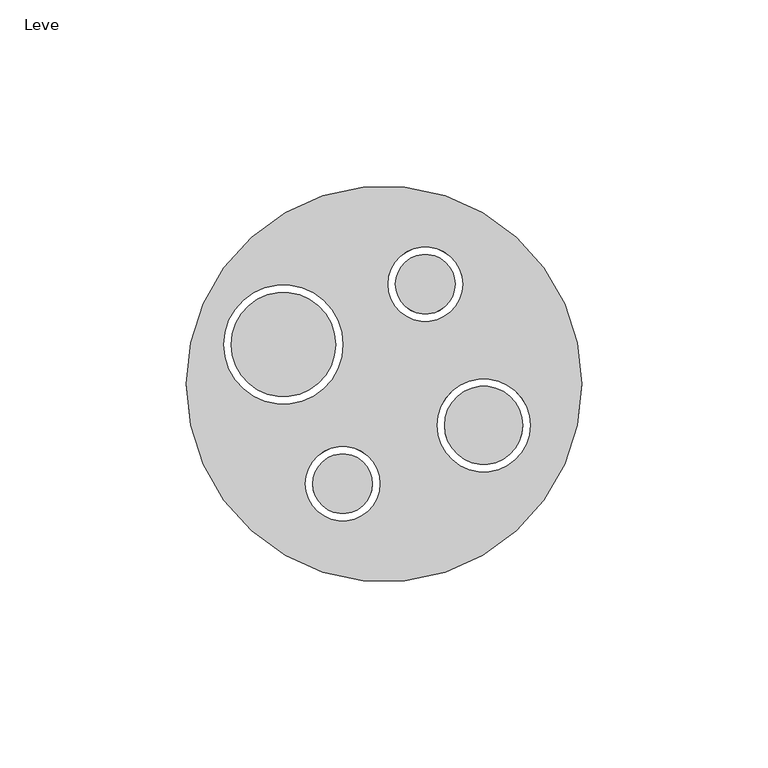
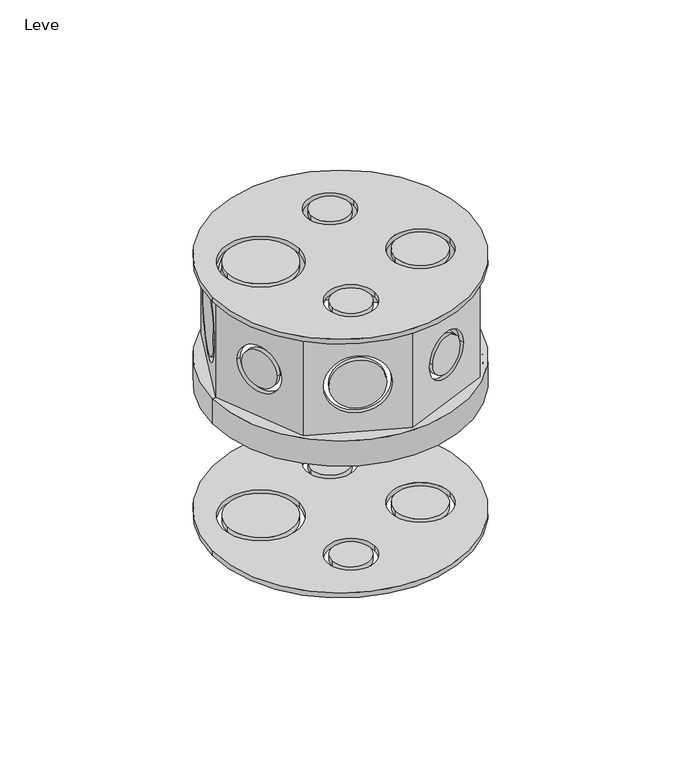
"""IFC4 building model written with IfcOpenShell, lengths in millimetres: pipe fitting geometry, AmancoWavin_ConexõesdoConduite_CorrugadoCaixaOctogonalcomProlongamentoLeve : Leve."""

from ifc_helpers import new_model, si_unit, point, frame, frame_2d, origin, origin_2d, place, context, project, spatial, polyline, circle_curve, trimmed, segment, composite_curve, outline, extrude, source, transform, mapped, element, save
from ifc_brep_helpers import plane_surface, cylinder_surface, revolved_surface, advanced_brep


def leve_d32ba077(model_context):
    return source(origin(), model_context, "Body", "SolidModel", [
        extrude(outline(composite_curve([segment(trimmed(circle_curve(origin_2d(), 53.1), [point((-53.1, 0.0))], [point((53.1, 0.0))], False, "CARTESIAN"), True, "CONTINUOUS"), segment(trimmed(circle_curve(origin_2d(), 53.1), [point((53.1, 0.0))], [point((-53.1, 0.0))], False, "CARTESIAN"), True, "CONTINUOUS")], self_intersect=False), holes=[composite_curve([segment(trimmed(circle_curve(frame_2d((11.0978211, 26.7925101)), 10.0), [point((1.0978211, 26.7925101))], [point((21.0978211, 26.7925101))], True, "CARTESIAN"), True, "CONTINUOUS"), segment(trimmed(circle_curve(frame_2d((11.0978211, 26.7925101)), 10.0), [point((21.0978211, 26.7925101))], [point((1.0978211, 26.7925101))], True, "CARTESIAN"), True, "CONTINUOUS")], self_intersect=False), composite_curve([segment(trimmed(circle_curve(frame_2d((-11.0978211, -26.7925101)), 10.0), [point((-21.0978211, -26.7925101))], [point((-1.0978211, -26.7925101))], True, "CARTESIAN"), True, "CONTINUOUS"), segment(trimmed(circle_curve(frame_2d((-11.0978211, -26.7925101)), 10.0), [point((-1.0978211, -26.7925101))], [point((-21.0978211, -26.7925101))], True, "CARTESIAN"), True, "CONTINUOUS")], self_intersect=False), composite_curve([segment(trimmed(circle_curve(frame_2d((-27.0031292, 10.5893313)), 16.0), [point((-43.0031292, 10.5893313))], [point((-11.0031292, 10.5893313))], True, "CARTESIAN"), True, "CONTINUOUS"), segment(trimmed(circle_curve(frame_2d((-27.0031292, 10.5893313)), 16.0), [point((-11.0031292, 10.5893313))], [point((-43.0031292, 10.5893313))], True, "CARTESIAN"), True, "CONTINUOUS")], self_intersect=False), composite_curve([segment(trimmed(circle_curve(frame_2d((26.7866956, -11.1118481)), 12.5), [point((14.2866956, -11.1118481))], [point((39.2866956, -11.1118481))], True, "CARTESIAN"), True, "CONTINUOUS"), segment(trimmed(circle_curve(frame_2d((26.7866956, -11.1118481)), 12.5), [point((39.2866956, -11.1118481))], [point((14.2866956, -11.1118481))], True, "CARTESIAN"), True, "CONTINUOUS")], self_intersect=False)]), frame((0.0, 0.0, -2.1), z_axis=(0.0, 0.0, 1.0), x_axis=(1.0, 0.0, 0.0)), (0.0, 0.0, 1.0), 2.1),
        extrude(outline(composite_curve([segment(trimmed(circle_curve(frame_2d((11.0978211, 26.7925101)), 8.0), [point((3.0978211, 26.7925101))], [point((19.0978211, 26.7925101))], False, "CARTESIAN"), True, "CONTINUOUS"), segment(trimmed(circle_curve(frame_2d((11.0978211, 26.7925101)), 8.0), [point((19.0978211, 26.7925101))], [point((3.0978211, 26.7925101))], False, "CARTESIAN"), True, "CONTINUOUS")], self_intersect=False)), frame((0.0, 0.0, -2.1), z_axis=(0.0, 0.0, 1.0), x_axis=(1.0, 0.0, 0.0)), (0.0, 0.0, 1.0), 2.1),
        extrude(outline(composite_curve([segment(trimmed(circle_curve(frame_2d((-11.0978211, -26.7925101)), 8.0), [point((-19.0978211, -26.7925101))], [point((-3.0978211, -26.7925101))], False, "CARTESIAN"), True, "CONTINUOUS"), segment(trimmed(circle_curve(frame_2d((-11.0978211, -26.7925101)), 8.0), [point((-3.0978211, -26.7925101))], [point((-19.0978211, -26.7925101))], False, "CARTESIAN"), True, "CONTINUOUS")], self_intersect=False)), frame((0.0, 0.0, -2.1), z_axis=(0.0, 0.0, 1.0), x_axis=(1.0, 0.0, 0.0)), (0.0, 0.0, 1.0), 2.1),
        extrude(outline(composite_curve([segment(trimmed(circle_curve(frame_2d((-27.0031292, 10.5893313)), 14.0), [point((-41.0031292, 10.5893313))], [point((-13.0031292, 10.5893313))], False, "CARTESIAN"), True, "CONTINUOUS"), segment(trimmed(circle_curve(frame_2d((-27.0031292, 10.5893313)), 14.0), [point((-13.0031292, 10.5893313))], [point((-41.0031292, 10.5893313))], False, "CARTESIAN"), True, "CONTINUOUS")], self_intersect=False)), frame((0.0, 0.0, -2.1), z_axis=(0.0, 0.0, 1.0), x_axis=(1.0, 0.0, 0.0)), (0.0, 0.0, 1.0), 2.1),
        extrude(outline(composite_curve([segment(trimmed(circle_curve(frame_2d((26.7866956, -11.1118481)), 10.5), [point((16.2866956, -11.1118481))], [point((37.2866956, -11.1118481))], False, "CARTESIAN"), True, "CONTINUOUS"), segment(trimmed(circle_curve(frame_2d((26.7866956, -11.1118481)), 10.5), [point((37.2866956, -11.1118481))], [point((16.2866956, -11.1118481))], False, "CARTESIAN"), True, "CONTINUOUS")], self_intersect=False)), frame((0.0, 0.0, -2.1), z_axis=(0.0, 0.0, 1.0), x_axis=(1.0, 0.0, 0.0)), (0.0, 0.0, 1.0), 2.1),
        advanced_brep(
        [(-53.1, 0.0, 66.8), (53.1, 0.0, 66.8), (50.0065197, 0.0, 66.8), (35.3599492, -35.3599492, 66.8), (0.0, -50.0065197, 66.8), (-35.3599492, -35.3599492, 66.8), (-50.0065197, 0.0, 66.8), (-35.3599492, 35.3599492, 66.8), (0.0, 50.0065197, 66.8), (35.3599492, 35.3599492, 66.8), (51.3, 0.0, 65.0), (-51.3, 0.0, 65.0), (-50.0065197, 0.0, 65.0), (-35.3599492, -35.3599492, 65.0), (0.0, -50.0065197, 65.0), (35.3599492, -35.3599492, 65.0), (50.0065197, 0.0, 65.0), (35.3599492, 35.3599492, 65.0), (0.0, 50.0065197, 65.0), (-35.3599492, 35.3599492, 65.0), (51.3, 0.0, 55.7), (-51.3, 0.0, 55.7), (53.1, 0.0, 55.7), (-53.1, 0.0, 55.7)],
        [
            (0, 1, circle_curve(frame((0.0, 0.0, 66.8), z_axis=(0.0, 0.0, 1.0), x_axis=(-1.0, 0.0, 0.0)), 53.1)),
            (1, 2),
            (2, 3),
            (3, 4),
            (4, 5),
            (5, 6),
            (6, 0),
            (1, 0, circle_curve(frame((0.0, 0.0, 66.8), z_axis=(0.0, 0.0, 1.0), x_axis=(-1.0, 0.0, 0.0)), 53.1)),
            (6, 7),
            (7, 8),
            (8, 9),
            (9, 2),
            (10, 11, circle_curve(frame((0.0, 0.0, 65.0), z_axis=(0.0, 0.0, -1.0), x_axis=(-1.0, 0.0, 0.0)), 51.3)),
            (11, 12),
            (12, 13),
            (13, 14),
            (14, 15),
            (15, 16),
            (16, 10),
            (11, 10, circle_curve(frame((0.0, 0.0, 65.0), z_axis=(0.0, 0.0, -1.0), x_axis=(-1.0, 0.0, 0.0)), 51.3)),
            (16, 17),
            (17, 18),
            (18, 19),
            (19, 12),
            (10, 20),
            (20, 21, circle_curve(frame((0.0, 0.0, 55.7), z_axis=(0.0, 0.0, -1.0), x_axis=(-1.0, 0.0, 0.0)), 51.3)),
            (21, 11),
            (21, 20, circle_curve(frame((0.0, 0.0, 55.7), z_axis=(0.0, 0.0, -1.0), x_axis=(-1.0, 0.0, 0.0)), 51.3)),
            (20, 22),
            (22, 23, circle_curve(frame((0.0, 0.0, 55.7), z_axis=(0.0, 0.0, -1.0), x_axis=(-1.0, 0.0, 0.0)), 53.1)),
            (23, 21),
            (23, 22, circle_curve(frame((0.0, 0.0, 55.7), z_axis=(0.0, 0.0, -1.0), x_axis=(-1.0, 0.0, 0.0)), 53.1)),
            (0, 23),
            (22, 1),
            (6, 12),
            (19, 7),
            (5, 13),
            (4, 14),
            (3, 15),
            (2, 16),
            (9, 17),
            (8, 18),
        ],
        [
            plane_surface(frame((0.0, 0.0, 66.8), z_axis=(0.0, 0.0, 1.0), x_axis=(-1.0, 0.0, 0.0))),
            plane_surface(frame((0.0, 0.0, 65.0), z_axis=(0.0, 0.0, -1.0), x_axis=(-1.0, 0.0, 0.0))),
            revolved_surface(polyline([(-51.3, 0.0, 65.0), (-51.3, 0.0, 55.69999999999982)]), (0.0, 0.0, -2207.2837531), (0.0, 0.0, 1.0)),
            plane_surface(frame((0.0, 0.0, 55.7), z_axis=(0.0, 0.0, -1.0), x_axis=(-1.0, 0.0, 0.0))),
            cylinder_surface(frame((0.0, 0.0, -2207.2837531), z_axis=(0.0, 0.0, 1.0), x_axis=(-1.0, 0.0, 0.0)), 53.1),
            plane_surface(frame((-35.3599492, 35.3599492, 109.3), z_axis=(0.9238795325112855, -0.38268343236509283, 0.0), x_axis=(0.0, 0.0, -1.0))),
            plane_surface(frame((-50.0065197, 0.0, 109.3), z_axis=(0.9238795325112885, 0.3826834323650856, 0.0), x_axis=(0.0, 0.0, -1.0))),
            plane_surface(frame((-35.3599492, -35.3599492, 109.3), z_axis=(0.38268343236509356, 0.9238795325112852, 0.0), x_axis=(0.0, 0.0, -1.0))),
            plane_surface(frame((0.0, -50.0065197, 109.3), z_axis=(-0.38268343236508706, 0.923879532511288, 0.0), x_axis=(0.0, 0.0, -1.0))),
            plane_surface(frame((35.3599492, -35.3599492, 109.3), z_axis=(-0.9238795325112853, 0.3826834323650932, 0.0), x_axis=(0.0, 0.0, -1.0))),
            plane_surface(frame((50.0065197, 0.0, 109.3), z_axis=(-0.9238795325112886, -0.38268343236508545, 0.0), x_axis=(0.0, 0.0, -1.0))),
            plane_surface(frame((35.3599492, 35.3599492, 109.3), z_axis=(-0.3826834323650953, -0.9238795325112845, 0.0), x_axis=(0.0, 0.0, -1.0))),
            plane_surface(frame((0.0, 50.0065197, 109.3), z_axis=(0.3826834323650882, -0.9238795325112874, 0.0), x_axis=(0.0, 0.0, -1.0))),
        ],
        [
            (0, [[1, 2, 3, 4, 5, 6, 7]]),
            (0, [[8, -7, 9, 10, 11, 12, -2]]),
            (1, [[13, 14, 15, 16, 17, 18, 19]]),
            (1, [[20, -19, 21, 22, 23, 24, -14]]),
            (2, [[-13, 25, 26, 27]]),
            (2, [[-20, -27, 28, -25]]),
            (3, [[-26, 29, 30, 31]]),
            (3, [[-28, -31, 32, -29]]),
            (4, [[-1, 33, -30, 34]]),
            (4, [[-8, -34, -32, -33]]),
            (5, [[35, -24, 36, -9]]),
            (6, [[-35, -6, 37, -15]]),
            (7, [[-37, -5, 38, -16]]),
            (8, [[-38, -4, 39, -17]]),
            (9, [[40, -18, -39, -3]]),
            (10, [[-40, -12, 41, -21]]),
            (11, [[-41, -11, 42, -22]]),
            (12, [[-36, -23, -42, -10]]),
        ],
    ),
        extrude(outline(composite_curve([segment(trimmed(circle_curve(origin_2d(), 53.1), [point((-53.1, 0.0))], [point((53.1, 0.0))], False, "CARTESIAN"), True, "CONTINUOUS"), segment(trimmed(circle_curve(origin_2d(), 53.1), [point((53.1, 0.0))], [point((-53.1, 0.0))], False, "CARTESIAN"), True, "CONTINUOUS")], self_intersect=False), holes=[composite_curve([segment(trimmed(circle_curve(frame_2d((11.0978211, 26.7925101)), 10.0), [point((1.0978211, 26.7925101))], [point((21.0978211, 26.7925101))], True, "CARTESIAN"), True, "CONTINUOUS"), segment(trimmed(circle_curve(frame_2d((11.0978211, 26.7925101)), 10.0), [point((21.0978211, 26.7925101))], [point((1.0978211, 26.7925101))], True, "CARTESIAN"), True, "CONTINUOUS")], self_intersect=False), composite_curve([segment(trimmed(circle_curve(frame_2d((-11.0978211, -26.7925101)), 10.0), [point((-21.0978211, -26.7925101))], [point((-1.0978211, -26.7925101))], True, "CARTESIAN"), True, "CONTINUOUS"), segment(trimmed(circle_curve(frame_2d((-11.0978211, -26.7925101)), 10.0), [point((-1.0978211, -26.7925101))], [point((-21.0978211, -26.7925101))], True, "CARTESIAN"), True, "CONTINUOUS")], self_intersect=False), composite_curve([segment(trimmed(circle_curve(frame_2d((-27.0031292, 10.5893313)), 16.0), [point((-43.0031292, 10.5893313))], [point((-11.0031292, 10.5893313))], True, "CARTESIAN"), True, "CONTINUOUS"), segment(trimmed(circle_curve(frame_2d((-27.0031292, 10.5893313)), 16.0), [point((-11.0031292, 10.5893313))], [point((-43.0031292, 10.5893313))], True, "CARTESIAN"), True, "CONTINUOUS")], self_intersect=False), composite_curve([segment(trimmed(circle_curve(frame_2d((26.7866956, -11.1118481)), 12.5), [point((14.2866956, -11.1118481))], [point((39.2866956, -11.1118481))], True, "CARTESIAN"), True, "CONTINUOUS"), segment(trimmed(circle_curve(frame_2d((26.7866956, -11.1118481)), 12.5), [point((39.2866956, -11.1118481))], [point((14.2866956, -11.1118481))], True, "CARTESIAN"), True, "CONTINUOUS")], self_intersect=False)]), frame((0.0, 0.0, 109.3), z_axis=(0.0, 0.0, 1.0), x_axis=(1.0, 0.0, 0.0)), (0.0, 0.0, 1.0), 2.1),
        extrude(outline(composite_curve([segment(trimmed(circle_curve(frame_2d((11.0978211, 26.7925101)), 8.0), [point((3.0978211, 26.7925101))], [point((19.0978211, 26.7925101))], False, "CARTESIAN"), True, "CONTINUOUS"), segment(trimmed(circle_curve(frame_2d((11.0978211, 26.7925101)), 8.0), [point((19.0978211, 26.7925101))], [point((3.0978211, 26.7925101))], False, "CARTESIAN"), True, "CONTINUOUS")], self_intersect=False)), frame((0.0, 0.0, 109.3), z_axis=(0.0, 0.0, 1.0), x_axis=(1.0, 0.0, 0.0)), (0.0, 0.0, 1.0), 2.1),
        extrude(outline(composite_curve([segment(trimmed(circle_curve(frame_2d((-11.0978211, -26.7925101)), 8.0), [point((-19.0978211, -26.7925101))], [point((-3.0978211, -26.7925101))], False, "CARTESIAN"), True, "CONTINUOUS"), segment(trimmed(circle_curve(frame_2d((-11.0978211, -26.7925101)), 8.0), [point((-3.0978211, -26.7925101))], [point((-19.0978211, -26.7925101))], False, "CARTESIAN"), True, "CONTINUOUS")], self_intersect=False)), frame((0.0, 0.0, 109.3), z_axis=(0.0, 0.0, 1.0), x_axis=(1.0, 0.0, 0.0)), (0.0, 0.0, 1.0), 2.1),
        extrude(outline(composite_curve([segment(trimmed(circle_curve(frame_2d((-27.0031292, 10.5893313)), 14.0), [point((-41.0031292, 10.5893313))], [point((-13.0031292, 10.5893313))], False, "CARTESIAN"), True, "CONTINUOUS"), segment(trimmed(circle_curve(frame_2d((-27.0031292, 10.5893313)), 14.0), [point((-13.0031292, 10.5893313))], [point((-41.0031292, 10.5893313))], False, "CARTESIAN"), True, "CONTINUOUS")], self_intersect=False)), frame((0.0, 0.0, 109.3), z_axis=(0.0, 0.0, 1.0), x_axis=(1.0, 0.0, 0.0)), (0.0, 0.0, 1.0), 2.1),
        extrude(outline(composite_curve([segment(trimmed(circle_curve(frame_2d((26.7866956, -11.1118481)), 10.5), [point((16.2866956, -11.1118481))], [point((37.2866956, -11.1118481))], False, "CARTESIAN"), True, "CONTINUOUS"), segment(trimmed(circle_curve(frame_2d((26.7866956, -11.1118481)), 10.5), [point((37.2866956, -11.1118481))], [point((16.2866956, -11.1118481))], False, "CARTESIAN"), True, "CONTINUOUS")], self_intersect=False)), frame((0.0, 0.0, 109.3), z_axis=(0.0, 0.0, 1.0), x_axis=(1.0, 0.0, 0.0)), (0.0, 0.0, 1.0), 2.1),
        advanced_brep(
        [(-35.3599492, 35.3599492, 66.8), (-35.3599492, 35.3599492, 109.3), (-50.0065197, 0.0, 109.3), (-50.0065197, 0.0, 66.8), (-36.5602995, 32.4620471, 87.9), (-48.8061693, 2.8979021, 87.9), (-35.3599492, -35.3599492, 109.3), (-35.3599492, -35.3599492, 66.8), (-46.5100687, -8.4411793, 87.9), (-38.8564001, -26.9187699, 87.9), (0.0, -50.0065197, 109.3), (0.0, -50.0065197, 66.8), (-29.2284687, -37.8996915, 87.9), (-6.1314804, -47.4667773, 87.9), (35.3599492, -35.3599492, 109.3), (35.3599492, -35.3599492, 66.8), (8.4411793, -46.5100687, 87.9), (26.9187699, -38.8564001, 87.9), (50.0065197, 0.0, 109.3), (50.0065197, 0.0, 66.8), (36.5602995, -32.4620471, 87.9), (48.8061693, -2.8979021, 87.9), (35.3599492, 35.3599492, 109.3), (35.3599492, 35.3599492, 66.8), (47.4667773, 6.1314804, 87.9), (37.8996915, 29.2284687, 87.9), (0.0, 50.0065197, 109.3), (0.0, 50.0065197, 66.8), (26.9187699, 38.8564001, 87.9), (8.4411793, 46.5100687, 87.9), (-6.1314804, 47.4667773, 87.9), (-29.2284687, 37.8996915, 87.9), (-36.7376095, 36.7376095, 109.3), (-51.9548256, 0.0, 109.3), (-36.7376095, -36.7376095, 109.3), (0.0, -51.9548256, 109.3), (36.7376095, -36.7376095, 109.3), (51.9548256, 0.0, 109.3), (36.7376095, 36.7376095, 109.3), (0.0, 51.9548256, 109.3), (-36.7376095, 36.7376095, 66.8), (0.0, 51.9548256, 66.8), (36.7376095, 36.7376095, 66.8), (51.9548256, 0.0, 66.8), (36.7376095, -36.7376095, 66.8), (0.0, -51.9548256, 66.8), (-36.7376095, -36.7376095, 66.8), (-51.9548256, 0.0, 66.8), (-50.4691525, 3.5867322, 87.9), (-38.2232826, 33.1508773, 87.9), (-40.5193832, -27.6076001, 87.9), (-48.1730519, -9.1300094, 87.9), (-6.8203106, -49.1297605, 87.9), (-29.9172989, -39.5626747, 87.9), (27.6076001, -40.5193832, 87.9), (9.1300094, -48.1730519, 87.9), (50.4691525, -3.5867322, 87.9), (38.2232826, -33.1508773, 87.9), (39.5626747, 29.9172989, 87.9), (49.1297605, 6.8203106, 87.9), (9.1300094, 48.1730519, 87.9), (27.6076001, 40.5193832, 87.9), (-29.9172989, 39.5626747, 87.9), (-6.8203106, 49.1297605, 87.9)],
        [
            (0, 1),
            (1, 2),
            (2, 3),
            (3, 0),
            (4, 5, circle_curve(frame((-42.6832344, 17.6799746, 87.9), z_axis=(-0.9238795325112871, 0.38268343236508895, 0.0), x_axis=(-0.38268343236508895, -0.9238795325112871, 0.0)), 16.0)),
            (5, 4, circle_curve(frame((-42.6832344, 17.6799746, 87.9), z_axis=(-0.9238795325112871, 0.38268343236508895, 0.0), x_axis=(-0.38268343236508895, -0.9238795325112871, 0.0)), 16.0)),
            (2, 6),
            (6, 7),
            (7, 3),
            (8, 9, circle_curve(frame((-42.6832344, -17.6799746, 87.9), z_axis=(-0.9238795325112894, -0.38268343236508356, 0.0), x_axis=(0.38268343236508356, -0.9238795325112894, 0.0)), 10.0)),
            (9, 8, circle_curve(frame((-42.6832344, -17.6799746, 87.9), z_axis=(-0.9238795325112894, -0.38268343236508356, 0.0), x_axis=(0.38268343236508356, -0.9238795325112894, 0.0)), 10.0)),
            (6, 10),
            (10, 11),
            (11, 7),
            (12, 13, circle_curve(frame((-17.6799746, -42.6832344, 87.9), z_axis=(-0.3826834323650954, -0.9238795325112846, 0.0), x_axis=(-0.9238795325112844, 0.3826834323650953, 0.0)), 12.5)),
            (13, 12, circle_curve(frame((-17.6799746, -42.6832344, 87.9), z_axis=(-0.3826834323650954, -0.9238795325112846, 0.0), x_axis=(-0.9238795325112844, 0.3826834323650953, 0.0)), 12.5)),
            (10, 14),
            (14, 15),
            (15, 11),
            (16, 17, circle_curve(frame((17.6799746, -42.6832344, 87.9), z_axis=(0.38268343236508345, -0.9238795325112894, 0.0), x_axis=(0.9238795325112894, 0.38268343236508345, 0.0)), 10.0)),
            (17, 16, circle_curve(frame((17.6799746, -42.6832344, 87.9), z_axis=(0.38268343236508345, -0.9238795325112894, 0.0), x_axis=(0.9238795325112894, 0.38268343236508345, 0.0)), 10.0)),
            (14, 18),
            (18, 19),
            (19, 15),
            (20, 21, circle_curve(frame((42.6832344, -17.6799746, 87.9), z_axis=(0.9238795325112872, -0.38268343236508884, 0.0), x_axis=(-0.38268343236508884, -0.9238795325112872, 0.0)), 16.0)),
            (21, 20, circle_curve(frame((42.6832344, -17.6799746, 87.9), z_axis=(0.9238795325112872, -0.38268343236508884, 0.0), x_axis=(-0.38268343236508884, -0.9238795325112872, 0.0)), 16.0)),
            (18, 22),
            (22, 23),
            (23, 19),
            (24, 25, circle_curve(frame((42.6832344, 17.6799746, 87.9), z_axis=(0.9238795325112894, 0.38268343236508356, 0.0), x_axis=(0.38268343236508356, -0.9238795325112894, 0.0)), 12.5)),
            (25, 24, circle_curve(frame((42.6832344, 17.6799746, 87.9), z_axis=(0.9238795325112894, 0.38268343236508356, 0.0), x_axis=(0.38268343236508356, -0.9238795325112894, 0.0)), 12.5)),
            (22, 26),
            (26, 27),
            (27, 23),
            (28, 29, circle_curve(frame((17.6799746, 42.6832344, 87.9), z_axis=(0.38268343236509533, 0.9238795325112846, 0.0), x_axis=(0.9238795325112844, -0.3826834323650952, 0.0)), 10.0)),
            (29, 28, circle_curve(frame((17.6799746, 42.6832344, 87.9), z_axis=(0.38268343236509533, 0.9238795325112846, 0.0), x_axis=(0.9238795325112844, -0.3826834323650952, 0.0)), 10.0)),
            (0, 27),
            (26, 1),
            (30, 31, circle_curve(frame((-17.6799746, 42.6832344, 87.9), z_axis=(-0.3826834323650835, 0.9238795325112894, 0.0), x_axis=(-0.9238795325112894, -0.3826834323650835, 0.0)), 12.5)),
            (31, 30, circle_curve(frame((-17.6799746, 42.6832344, 87.9), z_axis=(-0.3826834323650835, 0.9238795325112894, 0.0), x_axis=(-0.9238795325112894, -0.3826834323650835, 0.0)), 12.5)),
            (32, 33),
            (33, 34),
            (34, 35),
            (35, 36),
            (36, 37),
            (37, 38),
            (38, 39),
            (39, 32),
            (40, 41),
            (41, 42),
            (42, 43),
            (43, 44),
            (44, 45),
            (45, 46),
            (46, 47),
            (47, 40),
            (32, 40),
            (47, 33),
            (48, 49, circle_curve(frame((-44.3462176, 18.3688048, 87.9), z_axis=(0.9238795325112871, -0.38268343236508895, 0.0), x_axis=(-0.38268343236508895, -0.9238795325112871, 0.0)), 16.0)),
            (49, 48, circle_curve(frame((-44.3462176, 18.3688048, 87.9), z_axis=(0.9238795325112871, -0.38268343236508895, 0.0), x_axis=(-0.38268343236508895, -0.9238795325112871, 0.0)), 16.0)),
            (46, 34),
            (50, 51, circle_curve(frame((-44.3462176, -18.3688048, 87.9), z_axis=(0.9238795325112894, 0.38268343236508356, 0.0), x_axis=(0.38268343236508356, -0.9238795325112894, 0.0)), 10.0)),
            (51, 50, circle_curve(frame((-44.3462176, -18.3688048, 87.9), z_axis=(0.9238795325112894, 0.38268343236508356, 0.0), x_axis=(0.38268343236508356, -0.9238795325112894, 0.0)), 10.0)),
            (45, 35),
            (52, 53, circle_curve(frame((-18.3688048, -44.3462176, 87.9), z_axis=(0.3826834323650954, 0.9238795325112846, 0.0), x_axis=(-0.9238795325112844, 0.3826834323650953, 0.0)), 12.5)),
            (53, 52, circle_curve(frame((-18.3688048, -44.3462176, 87.9), z_axis=(0.3826834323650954, 0.9238795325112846, 0.0), x_axis=(-0.9238795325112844, 0.3826834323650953, 0.0)), 12.5)),
            (44, 36),
            (54, 55, circle_curve(frame((18.3688048, -44.3462176, 87.9), z_axis=(-0.38268343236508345, 0.9238795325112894, 0.0), x_axis=(0.9238795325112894, 0.38268343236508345, 0.0)), 10.0)),
            (55, 54, circle_curve(frame((18.3688048, -44.3462176, 87.9), z_axis=(-0.38268343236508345, 0.9238795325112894, 0.0), x_axis=(0.9238795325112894, 0.38268343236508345, 0.0)), 10.0)),
            (43, 37),
            (56, 57, circle_curve(frame((44.3462176, -18.3688048, 87.9), z_axis=(-0.9238795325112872, 0.38268343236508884, 0.0), x_axis=(-0.38268343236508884, -0.9238795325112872, 0.0)), 16.0)),
            (57, 56, circle_curve(frame((44.3462176, -18.3688048, 87.9), z_axis=(-0.9238795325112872, 0.38268343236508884, 0.0), x_axis=(-0.38268343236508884, -0.9238795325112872, 0.0)), 16.0)),
            (42, 38),
            (58, 59, circle_curve(frame((44.3462176, 18.3688048, 87.9), z_axis=(-0.9238795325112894, -0.38268343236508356, 0.0), x_axis=(0.38268343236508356, -0.9238795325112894, 0.0)), 12.5)),
            (59, 58, circle_curve(frame((44.3462176, 18.3688048, 87.9), z_axis=(-0.9238795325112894, -0.38268343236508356, 0.0), x_axis=(0.38268343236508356, -0.9238795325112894, 0.0)), 12.5)),
            (41, 39),
            (60, 61, circle_curve(frame((18.3688048, 44.3462176, 87.9), z_axis=(-0.38268343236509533, -0.9238795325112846, 0.0), x_axis=(0.9238795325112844, -0.3826834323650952, 0.0)), 10.0)),
            (61, 60, circle_curve(frame((18.3688048, 44.3462176, 87.9), z_axis=(-0.38268343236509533, -0.9238795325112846, 0.0), x_axis=(0.9238795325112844, -0.3826834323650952, 0.0)), 10.0)),
            (62, 63, circle_curve(frame((-18.3688048, 44.3462176, 87.9), z_axis=(0.3826834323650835, -0.9238795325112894, 0.0), x_axis=(-0.9238795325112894, -0.3826834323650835, 0.0)), 12.5)),
            (63, 62, circle_curve(frame((-18.3688048, 44.3462176, 87.9), z_axis=(0.3826834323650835, -0.9238795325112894, 0.0), x_axis=(-0.9238795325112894, -0.3826834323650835, 0.0)), 12.5)),
            (4, 49),
            (48, 5),
            (8, 51),
            (50, 9),
            (56, 21),
            (20, 57),
            (58, 25),
            (24, 59),
            (30, 63),
            (62, 31),
            (52, 13),
            (12, 53),
            (60, 29),
            (28, 61),
            (16, 55),
            (54, 17),
        ],
        [
            plane_surface(frame((-35.3599492, 35.3599492, 109.3), z_axis=(0.9238795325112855, -0.38268343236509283, 0.0), x_axis=(0.0, 0.0, -1.0))),
            plane_surface(frame((-50.0065197, 0.0, 109.3), z_axis=(0.9238795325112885, 0.3826834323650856, 0.0), x_axis=(0.0, 0.0, -1.0))),
            plane_surface(frame((-35.3599492, -35.3599492, 109.3), z_axis=(0.38268343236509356, 0.9238795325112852, 0.0), x_axis=(0.0, 0.0, -1.0))),
            plane_surface(frame((0.0, -50.0065197, 109.3), z_axis=(-0.38268343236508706, 0.923879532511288, 0.0), x_axis=(0.0, 0.0, -1.0))),
            plane_surface(frame((35.3599492, -35.3599492, 109.3), z_axis=(-0.9238795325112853, 0.3826834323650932, 0.0), x_axis=(0.0, 0.0, -1.0))),
            plane_surface(frame((50.0065197, 0.0, 109.3), z_axis=(-0.9238795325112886, -0.38268343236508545, 0.0), x_axis=(0.0, 0.0, -1.0))),
            plane_surface(frame((35.3599492, 35.3599492, 109.3), z_axis=(-0.3826834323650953, -0.9238795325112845, 0.0), x_axis=(0.0, 0.0, -1.0))),
            plane_surface(frame((0.0, 50.0065197, 109.3), z_axis=(0.3826834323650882, -0.9238795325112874, 0.0), x_axis=(0.0, 0.0, -1.0))),
            plane_surface(frame((-36.7376095, 36.7376095, 109.3), z_axis=(0.0, 0.0, 1.0000000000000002), x_axis=(-0.3826834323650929, -0.9238795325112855, 0.0))),
            plane_surface(frame((-36.7376095, 36.7376095, 66.8), z_axis=(0.0, 0.0, -1.0000000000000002), x_axis=(0.3826834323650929, 0.9238795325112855, 0.0))),
            plane_surface(frame((-36.7376095, 36.7376095, 109.3), z_axis=(-0.9238795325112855, 0.3826834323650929, 0.0), x_axis=(0.0, 0.0, -1.0))),
            plane_surface(frame((-51.9548256, 0.0, 109.3), z_axis=(-0.9238795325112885, -0.3826834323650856, 0.0), x_axis=(0.0, 0.0, -1.0))),
            plane_surface(frame((-36.7376095, -36.7376095, 109.3), z_axis=(-0.3826834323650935, -0.9238795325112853, 0.0), x_axis=(0.0, 0.0, -1.0))),
            plane_surface(frame((0.0, -51.9548256, 109.3), z_axis=(0.3826834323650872, -0.9238795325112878, 0.0), x_axis=(0.0, 0.0, -1.0))),
            plane_surface(frame((36.7376095, -36.7376095, 109.3), z_axis=(0.9238795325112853, -0.3826834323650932, 0.0), x_axis=(0.0, 0.0, -1.0))),
            plane_surface(frame((51.9548256, 0.0, 109.3), z_axis=(0.9238795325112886, 0.3826834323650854, 0.0), x_axis=(0.0, 0.0, -1.0))),
            plane_surface(frame((36.7376095, 36.7376095, 109.3), z_axis=(0.38268343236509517, 0.9238795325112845, 0.0), x_axis=(0.0, 0.0, -1.0))),
            plane_surface(frame((0.0, 51.9548256, 109.3), z_axis=(-0.3826834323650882, 0.9238795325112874, 0.0), x_axis=(0.0, 0.0, -1.0))),
            revolved_surface(polyline([(-48.806169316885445, 2.8979020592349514, 87.9), (-50.46915252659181, 3.58673225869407, 87.9)]), (113.1333485, -46.8613673, 87.9), (0.9238795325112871, -0.38268343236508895, 0.0)),
            revolved_surface(polyline([(-38.856400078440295, -26.918769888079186, 87.9), (-40.5193832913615, -27.60760008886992, 87.9)]), (-88.9612962, -36.8489754, 87.9), (0.9238795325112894, 0.38268343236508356, 0.0)),
            revolved_surface(polyline([(38.22328269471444, -33.15087728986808, 87.9), (36.560299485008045, -32.46204709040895, 87.9)]), (113.1333485, -46.8613673, 87.9), (0.9238795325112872, -0.38268343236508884, 0.0)),
            revolved_surface(polyline([(49.12976051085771, 6.820310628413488, 87.9), (47.4667772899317, 6.131480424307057, 87.9)]), (-88.9612962, -36.8489754, 87.9), (0.9238795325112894, 0.38268343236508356, 0.0)),
            revolved_surface(polyline([(-29.22846871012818, 37.89969149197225, 87.9), (-29.91729891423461, 39.56267471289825, 87.9)]), (-28.4016141, 68.567562, 87.9), (0.3826834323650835, -0.9238795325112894, 0.0)),
            revolved_surface(polyline([(-29.917298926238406, -39.56267470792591, 87.9), (-29.22846872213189, -37.899691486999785, 87.9)]), (36.0484894, 87.028752, 87.9), (-0.3826834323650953, -0.9238795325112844, 0.0)),
            revolved_surface(polyline([(27.607600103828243, 40.51938328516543, 87.9), (26.91876990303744, 38.856400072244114, 87.9)]), (36.0484894, 87.028752, 87.9), (0.3826834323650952, 0.9238795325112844, 0.0)),
            revolved_surface(polyline([(26.91876991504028, -38.85640006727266, 87.9), (27.60760011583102, -40.519383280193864, 87.9)]), (-28.4016141, 68.567562, 87.9), (-0.38268343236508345, 0.9238795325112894, 0.0)),
        ],
        [
            (0, [[1, 2, 3, 4], [5, 6]]),
            (1, [[-3, 7, 8, 9], [10, 11]]),
            (2, [[-8, 12, 13, 14], [15, 16]]),
            (3, [[-13, 17, 18, 19], [20, 21]]),
            (4, [[-18, 22, 23, 24], [25, 26]]),
            (5, [[-23, 27, 28, 29], [30, 31]]),
            (6, [[-28, 32, 33, 34], [35, 36]]),
            (7, [[-1, 37, -33, 38], [39, 40]]),
            (8, [[41, 42, 43, 44, 45, 46, 47, 48], [-2, -38, -32, -27, -22, -17, -12, -7]]),
            (9, [[49, 50, 51, 52, 53, 54, 55, 56], [-4, -9, -14, -19, -24, -29, -34, -37]]),
            (10, [[-41, 57, -56, 58], [59, 60]]),
            (11, [[-42, -58, -55, 61], [62, 63]]),
            (12, [[-43, -61, -54, 64], [65, 66]]),
            (13, [[-44, -64, -53, 67], [68, 69]]),
            (14, [[-45, -67, -52, 70], [71, 72]]),
            (15, [[-46, -70, -51, 73], [74, 75]]),
            (16, [[-47, -73, -50, 76], [77, 78]]),
            (17, [[-48, -76, -49, -57], [79, 80]]),
            (18, [[81, -59, 82, -5]]),
            (18, [[-81, -6, -82, -60]]),
            (19, [[83, -62, 84, -10]]),
            (19, [[-83, -11, -84, -63]]),
            (20, [[85, -25, 86, -71]]),
            (20, [[-85, -72, -86, -26]]),
            (21, [[87, -30, 88, -74]]),
            (21, [[-87, -75, -88, -31]]),
            (22, [[89, -79, 90, -39]]),
            (22, [[-89, -40, -90, -80]]),
            (23, [[91, -15, 92, -65]]),
            (23, [[-91, -66, -92, -16]]),
            (24, [[93, -35, 94, -77]]),
            (24, [[-93, -78, -94, -36]]),
            (25, [[95, -68, 96, -20]]),
            (25, [[-95, -21, -96, -69]]),
        ],
    ),
        advanced_brep(
        [(-48.0408025, 4.7456611, 87.9), (-37.3256663, 30.614288, 87.9), (-38.9886495, 31.3031182, 87.9), (-49.7037856, 5.4344913, 87.9)],
        [
            (0, 1, circle_curve(frame((-42.6832344, 17.6799746, 87.9), z_axis=(0.9238795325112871, -0.38268343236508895, 0.0), x_axis=(-0.38268343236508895, -0.9238795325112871, 0.0)), 14.0)),
            (1, 0, circle_curve(frame((-42.6832344, 17.6799746, 87.9), z_axis=(0.9238795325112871, -0.38268343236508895, 0.0), x_axis=(-0.38268343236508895, -0.9238795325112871, 0.0)), 14.0)),
            (2, 3, circle_curve(frame((-44.3462176, 18.3688048, 87.9), z_axis=(-0.9238795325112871, 0.38268343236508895, 0.0), x_axis=(-0.38268343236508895, -0.9238795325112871, 0.0)), 14.0)),
            (3, 2, circle_curve(frame((-44.3462176, 18.3688048, 87.9), z_axis=(-0.9238795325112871, 0.38268343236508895, 0.0), x_axis=(-0.38268343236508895, -0.9238795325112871, 0.0)), 14.0)),
            (2, 1),
            (0, 3),
        ],
        [
            plane_surface(frame((-35.3599492, 35.3599492, 109.3), z_axis=(0.9238795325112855, -0.38268343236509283, 0.0), x_axis=(0.0, 0.0, -1.0))),
            plane_surface(frame((-36.7376095, 36.7376095, 109.3), z_axis=(-0.9238795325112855, 0.3826834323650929, 0.0), x_axis=(0.0, 0.0, -1.0))),
            cylinder_surface(frame((113.1333485, -46.8613673, 87.9), z_axis=(0.9238795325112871, -0.38268343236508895, 0.0), x_axis=(-0.38268343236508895, -0.9238795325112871, 0.0)), 14.0),
        ],
        [
            (0, [[1, 2]]),
            (1, [[3, 4]]),
            (2, [[5, -1, 6, -3]]),
            (2, [[-5, -4, -6, -2]]),
        ],
    ),
        advanced_brep(
        [(-39.6217669, -25.0710108, 87.9), (-45.7447019, -10.2889383, 87.9), (-47.407685, -10.9777685, 87.9), (-41.2847501, -25.759841, 87.9)],
        [
            (0, 1, circle_curve(frame((-42.6832344, -17.6799746, 87.9), z_axis=(0.9238795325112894, 0.38268343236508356, 0.0), x_axis=(0.38268343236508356, -0.9238795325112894, 0.0)), 8.0)),
            (1, 0, circle_curve(frame((-42.6832344, -17.6799746, 87.9), z_axis=(0.9238795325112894, 0.38268343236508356, 0.0), x_axis=(0.38268343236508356, -0.9238795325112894, 0.0)), 8.0)),
            (2, 3, circle_curve(frame((-44.3462176, -18.3688048, 87.9), z_axis=(-0.9238795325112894, -0.38268343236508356, 0.0), x_axis=(0.38268343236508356, -0.9238795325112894, 0.0)), 8.0)),
            (3, 2, circle_curve(frame((-44.3462176, -18.3688048, 87.9), z_axis=(-0.9238795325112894, -0.38268343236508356, 0.0), x_axis=(0.38268343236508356, -0.9238795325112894, 0.0)), 8.0)),
            (2, 1),
            (0, 3),
        ],
        [
            plane_surface(frame((-50.0065197, 0.0, 109.3), z_axis=(0.9238795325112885, 0.3826834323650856, 0.0), x_axis=(0.0, 0.0, -1.0))),
            plane_surface(frame((-51.9548256, 0.0, 109.3), z_axis=(-0.9238795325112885, -0.3826834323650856, 0.0), x_axis=(0.0, 0.0, -1.0))),
            cylinder_surface(frame((-88.9612962, -36.8489754, 87.9), z_axis=(0.9238795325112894, 0.38268343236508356, 0.0), x_axis=(0.38268343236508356, -0.9238795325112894, 0.0)), 8.0),
        ],
        [
            (0, [[1, 2]]),
            (1, [[3, 4]]),
            (2, [[5, -1, 6, -3]]),
            (2, [[-5, -4, -6, -2]]),
        ],
    ),
        advanced_brep(
        [(-7.9792395, -46.7014104, 87.9), (-27.3807097, -38.6650584, 87.9), (-28.0695398, -40.3280415, 87.9), (-8.6680697, -48.3643936, 87.9)],
        [
            (0, 1, circle_curve(frame((-17.6799746, -42.6832344, 87.9), z_axis=(0.3826834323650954, 0.9238795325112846, 0.0), x_axis=(-0.9238795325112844, 0.3826834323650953, 0.0)), 10.5)),
            (1, 0, circle_curve(frame((-17.6799746, -42.6832344, 87.9), z_axis=(0.3826834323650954, 0.9238795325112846, 0.0), x_axis=(-0.9238795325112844, 0.3826834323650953, 0.0)), 10.5)),
            (2, 3, circle_curve(frame((-18.3688048, -44.3462176, 87.9), z_axis=(-0.3826834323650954, -0.9238795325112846, 0.0), x_axis=(-0.9238795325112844, 0.3826834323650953, 0.0)), 10.5)),
            (3, 2, circle_curve(frame((-18.3688048, -44.3462176, 87.9), z_axis=(-0.3826834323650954, -0.9238795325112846, 0.0), x_axis=(-0.9238795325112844, 0.3826834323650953, 0.0)), 10.5)),
            (0, 3),
            (2, 1),
        ],
        [
            plane_surface(frame((-35.3599492, -35.3599492, 109.3), z_axis=(0.38268343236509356, 0.9238795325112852, 0.0), x_axis=(0.0, 0.0, -1.0))),
            plane_surface(frame((-36.7376095, -36.7376095, 109.3), z_axis=(-0.3826834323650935, -0.9238795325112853, 0.0), x_axis=(0.0, 0.0, -1.0))),
            cylinder_surface(frame((36.0484894, 87.028752, 87.9), z_axis=(-0.3826834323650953, -0.9238795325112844, 0.0), x_axis=(-0.9238795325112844, 0.3826834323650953, 0.0)), 10.5),
        ],
        [
            (0, [[1, 2]]),
            (1, [[3, 4]]),
            (2, [[5, -3, 6, -1]]),
            (2, [[-5, -2, -6, -4]]),
        ],
    ),
        advanced_brep(
        [(25.0710108, -39.6217669, 87.9), (10.2889383, -45.7447019, 87.9), (10.9777685, -47.407685, 87.9), (25.759841, -41.2847501, 87.9)],
        [
            (0, 1, circle_curve(frame((17.6799746, -42.6832344, 87.9), z_axis=(-0.38268343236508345, 0.9238795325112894, 0.0), x_axis=(0.9238795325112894, 0.38268343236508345, 0.0)), 8.0)),
            (1, 0, circle_curve(frame((17.6799746, -42.6832344, 87.9), z_axis=(-0.38268343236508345, 0.9238795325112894, 0.0), x_axis=(0.9238795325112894, 0.38268343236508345, 0.0)), 8.0)),
            (2, 3, circle_curve(frame((18.3688048, -44.3462176, 87.9), z_axis=(0.38268343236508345, -0.9238795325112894, 0.0), x_axis=(0.9238795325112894, 0.38268343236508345, 0.0)), 8.0)),
            (3, 2, circle_curve(frame((18.3688048, -44.3462176, 87.9), z_axis=(0.38268343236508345, -0.9238795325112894, 0.0), x_axis=(0.9238795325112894, 0.38268343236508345, 0.0)), 8.0)),
            (2, 1),
            (0, 3),
        ],
        [
            plane_surface(frame((0.0, -50.0065197, 109.3), z_axis=(-0.38268343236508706, 0.923879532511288, 0.0), x_axis=(0.0, 0.0, -1.0))),
            plane_surface(frame((0.0, -51.9548256, 109.3), z_axis=(0.3826834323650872, -0.9238795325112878, 0.0), x_axis=(0.0, 0.0, -1.0))),
            cylinder_surface(frame((-28.4016141, 68.567562, 87.9), z_axis=(-0.38268343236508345, 0.9238795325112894, 0.0), x_axis=(0.9238795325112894, 0.38268343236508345, 0.0)), 8.0),
        ],
        [
            (0, [[1, 2]]),
            (1, [[3, 4]]),
            (2, [[5, -1, 6, -3]]),
            (2, [[-5, -4, -6, -2]]),
        ],
    ),
        advanced_brep(
        [(48.0408025, -4.7456611, 87.9), (37.3256663, -30.614288, 87.9), (38.9886495, -31.3031182, 87.9), (49.7037856, -5.4344913, 87.9)],
        [
            (0, 1, circle_curve(frame((42.6832344, -17.6799746, 87.9), z_axis=(-0.9238795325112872, 0.38268343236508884, 0.0), x_axis=(-0.38268343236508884, -0.9238795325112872, 0.0)), 14.0)),
            (1, 0, circle_curve(frame((42.6832344, -17.6799746, 87.9), z_axis=(-0.9238795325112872, 0.38268343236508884, 0.0), x_axis=(-0.38268343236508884, -0.9238795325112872, 0.0)), 14.0)),
            (2, 3, circle_curve(frame((44.3462176, -18.3688048, 87.9), z_axis=(0.9238795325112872, -0.38268343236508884, 0.0), x_axis=(-0.38268343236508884, -0.9238795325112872, 0.0)), 14.0)),
            (3, 2, circle_curve(frame((44.3462176, -18.3688048, 87.9), z_axis=(0.9238795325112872, -0.38268343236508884, 0.0), x_axis=(-0.38268343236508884, -0.9238795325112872, 0.0)), 14.0)),
            (0, 3),
            (2, 1),
        ],
        [
            plane_surface(frame((35.3599492, -35.3599492, 109.3), z_axis=(-0.9238795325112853, 0.3826834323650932, 0.0), x_axis=(0.0, 0.0, -1.0))),
            plane_surface(frame((36.7376095, -36.7376095, 109.3), z_axis=(0.9238795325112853, -0.3826834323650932, 0.0), x_axis=(0.0, 0.0, -1.0))),
            cylinder_surface(frame((113.1333485, -46.8613673, 87.9), z_axis=(0.9238795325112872, -0.38268343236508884, 0.0), x_axis=(-0.38268343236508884, -0.9238795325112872, 0.0)), 14.0),
        ],
        [
            (0, [[1, 2]]),
            (1, [[3, 4]]),
            (2, [[5, -3, 6, -1]]),
            (2, [[-5, -2, -6, -4]]),
        ],
    ),
        advanced_brep(
        [(38.6650584, 27.3807097, 87.9), (46.7014104, 7.9792395, 87.9), (48.3643936, 8.6680697, 87.9), (40.3280415, 28.0695398, 87.9)],
        [
            (0, 1, circle_curve(frame((42.6832344, 17.6799746, 87.9), z_axis=(-0.9238795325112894, -0.38268343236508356, 0.0), x_axis=(0.38268343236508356, -0.9238795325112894, 0.0)), 10.5)),
            (1, 0, circle_curve(frame((42.6832344, 17.6799746, 87.9), z_axis=(-0.9238795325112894, -0.38268343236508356, 0.0), x_axis=(0.38268343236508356, -0.9238795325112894, 0.0)), 10.5)),
            (2, 3, circle_curve(frame((44.3462176, 18.3688048, 87.9), z_axis=(0.9238795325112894, 0.38268343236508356, 0.0), x_axis=(0.38268343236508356, -0.9238795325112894, 0.0)), 10.5)),
            (3, 2, circle_curve(frame((44.3462176, 18.3688048, 87.9), z_axis=(0.9238795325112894, 0.38268343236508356, 0.0), x_axis=(0.38268343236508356, -0.9238795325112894, 0.0)), 10.5)),
            (0, 3),
            (2, 1),
        ],
        [
            plane_surface(frame((50.0065197, 0.0, 109.3), z_axis=(-0.9238795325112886, -0.38268343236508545, 0.0), x_axis=(0.0, 0.0, -1.0))),
            plane_surface(frame((51.9548256, 0.0, 109.3), z_axis=(0.9238795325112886, 0.3826834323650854, 0.0), x_axis=(0.0, 0.0, -1.0))),
            cylinder_surface(frame((-88.9612962, -36.8489754, 87.9), z_axis=(0.9238795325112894, 0.38268343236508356, 0.0), x_axis=(0.38268343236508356, -0.9238795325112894, 0.0)), 10.5),
        ],
        [
            (0, [[1, 2]]),
            (1, [[3, 4]]),
            (2, [[5, -3, 6, -1]]),
            (2, [[-5, -2, -6, -4]]),
        ],
    ),
        advanced_brep(
        [(10.2889383, 45.7447019, 87.9), (25.0710108, 39.6217669, 87.9), (25.759841, 41.2847501, 87.9), (10.9777685, 47.407685, 87.9)],
        [
            (0, 1, circle_curve(frame((17.6799746, 42.6832344, 87.9), z_axis=(-0.38268343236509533, -0.9238795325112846, 0.0), x_axis=(0.9238795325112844, -0.3826834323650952, 0.0)), 8.0)),
            (1, 0, circle_curve(frame((17.6799746, 42.6832344, 87.9), z_axis=(-0.38268343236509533, -0.9238795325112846, 0.0), x_axis=(0.9238795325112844, -0.3826834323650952, 0.0)), 8.0)),
            (2, 3, circle_curve(frame((18.3688048, 44.3462176, 87.9), z_axis=(0.38268343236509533, 0.9238795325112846, 0.0), x_axis=(0.9238795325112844, -0.3826834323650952, 0.0)), 8.0)),
            (3, 2, circle_curve(frame((18.3688048, 44.3462176, 87.9), z_axis=(0.38268343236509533, 0.9238795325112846, 0.0), x_axis=(0.9238795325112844, -0.3826834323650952, 0.0)), 8.0)),
            (0, 3),
            (2, 1),
        ],
        [
            plane_surface(frame((35.3599492, 35.3599492, 109.3), z_axis=(-0.3826834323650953, -0.9238795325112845, 0.0), x_axis=(0.0, 0.0, -1.0))),
            plane_surface(frame((36.7376095, 36.7376095, 109.3), z_axis=(0.38268343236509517, 0.9238795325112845, 0.0), x_axis=(0.0, 0.0, -1.0))),
            cylinder_surface(frame((36.0484894, 87.028752, 87.9), z_axis=(0.3826834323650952, 0.9238795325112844, 0.0), x_axis=(0.9238795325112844, -0.3826834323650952, 0.0)), 8.0),
        ],
        [
            (0, [[1, 2]]),
            (1, [[3, 4]]),
            (2, [[5, -3, 6, -1]]),
            (2, [[-5, -2, -6, -4]]),
        ],
    ),
        advanced_brep(
        [(-27.3807097, 38.6650584, 87.9), (-7.9792395, 46.7014104, 87.9), (-8.6680697, 48.3643936, 87.9), (-28.0695398, 40.3280415, 87.9)],
        [
            (0, 1, circle_curve(frame((-17.6799746, 42.6832344, 87.9), z_axis=(0.3826834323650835, -0.9238795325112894, 0.0), x_axis=(-0.9238795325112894, -0.3826834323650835, 0.0)), 10.5)),
            (1, 0, circle_curve(frame((-17.6799746, 42.6832344, 87.9), z_axis=(0.3826834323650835, -0.9238795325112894, 0.0), x_axis=(-0.9238795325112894, -0.3826834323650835, 0.0)), 10.5)),
            (2, 3, circle_curve(frame((-18.3688048, 44.3462176, 87.9), z_axis=(-0.3826834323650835, 0.9238795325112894, 0.0), x_axis=(-0.9238795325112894, -0.3826834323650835, 0.0)), 10.5)),
            (3, 2, circle_curve(frame((-18.3688048, 44.3462176, 87.9), z_axis=(-0.3826834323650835, 0.9238795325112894, 0.0), x_axis=(-0.9238795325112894, -0.3826834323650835, 0.0)), 10.5)),
            (2, 1),
            (0, 3),
        ],
        [
            plane_surface(frame((0.0, 50.0065197, 109.3), z_axis=(0.3826834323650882, -0.9238795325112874, 0.0), x_axis=(0.0, 0.0, -1.0))),
            plane_surface(frame((0.0, 51.9548256, 109.3), z_axis=(-0.3826834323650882, 0.9238795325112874, 0.0), x_axis=(0.0, 0.0, -1.0))),
            cylinder_surface(frame((-28.4016141, 68.567562, 87.9), z_axis=(0.3826834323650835, -0.9238795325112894, 0.0), x_axis=(-0.9238795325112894, -0.3826834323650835, 0.0)), 10.5),
        ],
        [
            (0, [[1, 2]]),
            (1, [[3, 4]]),
            (2, [[5, -1, 6, -3]]),
            (2, [[-5, -4, -6, -2]]),
        ],
    ),
    ])


if __name__ == "__main__":
    model = new_model("IFC4")
    model_context = context("Model", 3, world=origin())
    ifc_project = project(units=[si_unit("LENGTHUNIT", "METRE", prefix="MILLI")], contexts=[model_context])
    site = spatial("IfcSite", under=ifc_project)
    building = spatial("IfcBuilding", under=site)
    placement = place(None, origin())
    leve_shape = leve_d32ba077(model_context)
    element("IfcPipeFitting", 1, ObjectType="AmancoWavin_ConexõesdoConduite_CorrugadoCaixaOctogonalcomProlongamentoLeve : Leve", at=placement, inside=building, context=model_context, shape_type="MappedRepresentation", body=[
        mapped(leve_shape, transform((0.0, 0.0, 0.0), x_axis=(1.0, 0.0, 0.0), y_axis=(0.0, 1.0, 0.0), z_axis=(0.0, 0.0, 1.0))),
    ])
    save(model, "model.ifc")
